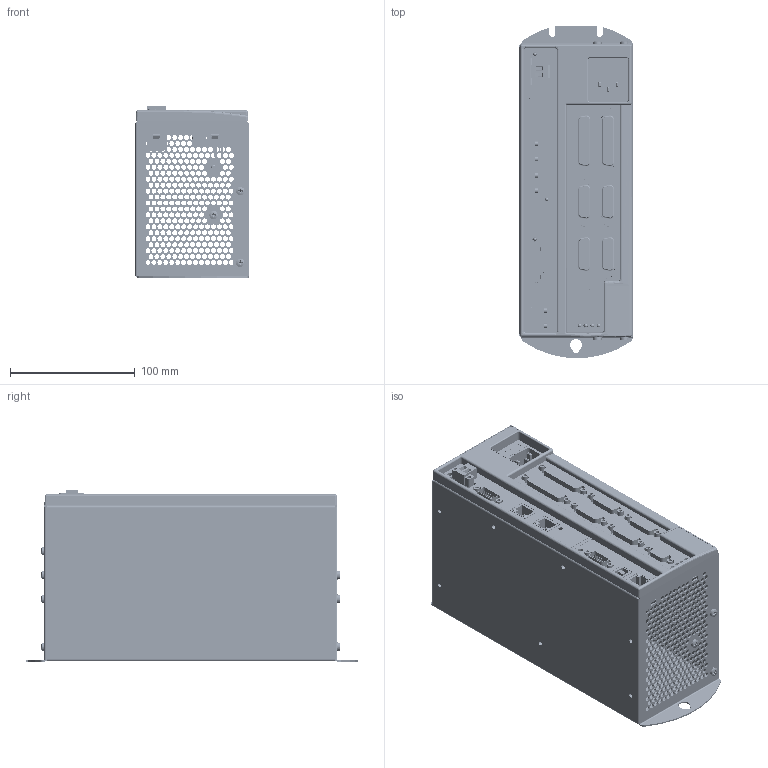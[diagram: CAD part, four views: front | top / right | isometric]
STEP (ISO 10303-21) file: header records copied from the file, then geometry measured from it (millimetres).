
FILE_DESCRIPTION((''),'2;1');
FILE_NAME('ACR9030_2_4_AXIS_EPL','2007-05-01T',('JOHNB'),('Ultra Tool'),'PRO/ENGINEER BY PARAMETRIC TECHNOLOGY CORPORATION, 2005380','PRO/ENGINEER BY PARAMETRIC TECHNOLOGY CORPORATION, 2005380','');
FILE_SCHEMA(('CONFIG_CONTROL_DESIGN'));
Products named in the file (1): ACR9030_2_4_AXIS_EPL
Bounding box: 90.93 x 266.41 x 138.05 mm (x, y, z)
Volume: 287695.2 mm3; surface area: 321012.7 mm2
Topology: 15 solids, 15 shells, 3234 faces, 8849 edges, 5611 vertices
Faces by surface type: cylinder 1855, plane 1024, bspline 180, cone 104, sphere 45, torus 24, extrusion 2
Entity records: 135371 total; most frequent: CARTESIAN_POINT 26091, DIRECTION 18082, ORIENTED_EDGE 17378, EDGE_CURVE 8689, AXIS2_PLACEMENT_3D 6884, VERTEX_POINT 5743, EDGE_LOOP 4727, VECTOR 4314
